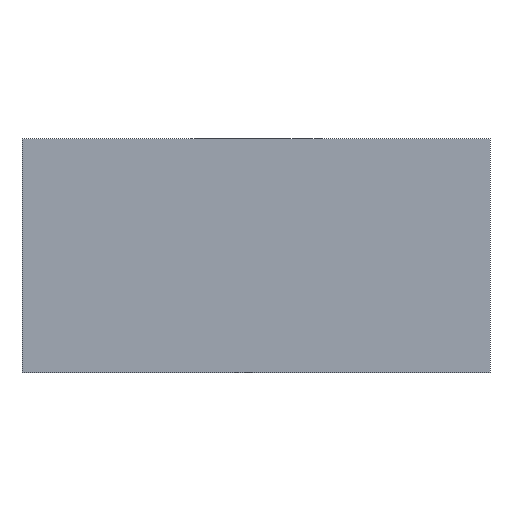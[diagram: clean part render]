
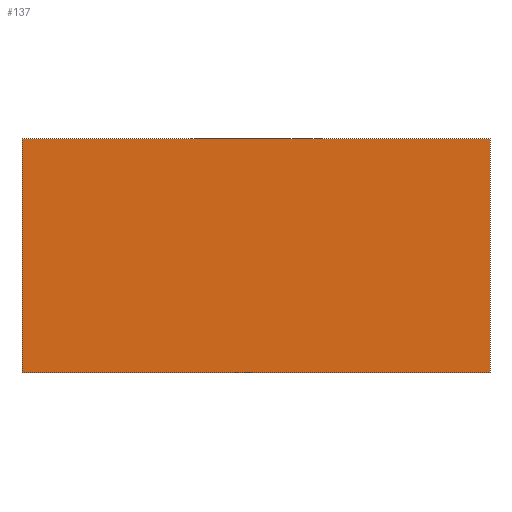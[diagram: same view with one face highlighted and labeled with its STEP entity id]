
A CAD part, front view. The second image highlights one B-rep face of the part: STEP entity #137.
In plain terms, the highlighted planar face has unit normal (0, -1, 0).
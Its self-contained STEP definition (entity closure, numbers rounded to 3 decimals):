
#21 = EDGE_CURVE('',#22,#24,#26,.T.);
#22 = VERTEX_POINT('',#23);
#23 = CARTESIAN_POINT('',(-8.,-52.8,-87.));
#24 = VERTEX_POINT('',#25);
#25 = CARTESIAN_POINT('',(-8.,-52.8,-79.));
#26 = SURFACE_CURVE('',#27,(#31,#43),.PCURVE_S1.);
#27 = LINE('',#28,#29);
#28 = CARTESIAN_POINT('',(-8.,-52.8,-87.));
#29 = VECTOR('',#30,1.);
#30 = DIRECTION('',(0.,0.,1.));
#31 = PCURVE('',#32,#37);
#32 = PLANE('',#33);
#33 = AXIS2_PLACEMENT_3D('',#34,#35,#36);
#34 = CARTESIAN_POINT('',(-8.,-52.8,-87.));
#35 = DIRECTION('',(1.,0.,0.));
#36 = DIRECTION('',(0.,0.,1.));
#37 = DEFINITIONAL_REPRESENTATION('',(#38),#42);
#38 = LINE('',#39,#40);
#39 = CARTESIAN_POINT('',(0.,0.));
#40 = VECTOR('',#41,1.);
#41 = DIRECTION('',(1.,0.));
#42 = ( GEOMETRIC_REPRESENTATION_CONTEXT(2) 
PARAMETRIC_REPRESENTATION_CONTEXT() REPRESENTATION_CONTEXT('2D SPACE',''
  ) );
#43 = PCURVE('',#44,#49);
#44 = PLANE('',#45);
#45 = AXIS2_PLACEMENT_3D('',#46,#47,#48);
#46 = CARTESIAN_POINT('',(-8.,-52.8,-87.));
#47 = DIRECTION('',(0.,1.,0.));
#48 = DIRECTION('',(0.,0.,1.));
#49 = DEFINITIONAL_REPRESENTATION('',(#50),#54);
#50 = LINE('',#51,#52);
#51 = CARTESIAN_POINT('',(0.,0.));
#52 = VECTOR('',#53,1.);
#53 = DIRECTION('',(1.,0.));
#54 = ( GEOMETRIC_REPRESENTATION_CONTEXT(2) 
PARAMETRIC_REPRESENTATION_CONTEXT() REPRESENTATION_CONTEXT('2D SPACE',''
  ) );
#72 = PLANE('',#73);
#73 = AXIS2_PLACEMENT_3D('',#74,#75,#76);
#74 = CARTESIAN_POINT('',(-8.,-52.8,-87.));
#75 = DIRECTION('',(0.,0.,1.));
#76 = DIRECTION('',(1.,0.,0.));
#126 = PLANE('',#127);
#127 = AXIS2_PLACEMENT_3D('',#128,#129,#130);
#128 = CARTESIAN_POINT('',(-8.,-52.8,-79.));
#129 = DIRECTION('',(0.,0.,1.));
#130 = DIRECTION('',(1.,0.,0.));
#137 = ADVANCED_FACE('',(#138),#44,.F.);
#138 = FACE_BOUND('',#139,.F.);
#139 = EDGE_LOOP('',(#140,#163,#164,#187));
#140 = ORIENTED_EDGE('',*,*,#141,.F.);
#141 = EDGE_CURVE('',#22,#142,#144,.T.);
#142 = VERTEX_POINT('',#143);
#143 = CARTESIAN_POINT('',(8.,-52.8,-87.));
#144 = SURFACE_CURVE('',#145,(#149,#156),.PCURVE_S1.);
#145 = LINE('',#146,#147);
#146 = CARTESIAN_POINT('',(-8.,-52.8,-87.));
#147 = VECTOR('',#148,1.);
#148 = DIRECTION('',(1.,0.,0.));
#149 = PCURVE('',#44,#150);
#150 = DEFINITIONAL_REPRESENTATION('',(#151),#155);
#151 = LINE('',#152,#153);
#152 = CARTESIAN_POINT('',(0.,0.));
#153 = VECTOR('',#154,1.);
#154 = DIRECTION('',(0.,1.));
#155 = ( GEOMETRIC_REPRESENTATION_CONTEXT(2) 
PARAMETRIC_REPRESENTATION_CONTEXT() REPRESENTATION_CONTEXT('2D SPACE',''
  ) );
#156 = PCURVE('',#72,#157);
#157 = DEFINITIONAL_REPRESENTATION('',(#158),#162);
#158 = LINE('',#159,#160);
#159 = CARTESIAN_POINT('',(0.,0.));
#160 = VECTOR('',#161,1.);
#161 = DIRECTION('',(1.,0.));
#162 = ( GEOMETRIC_REPRESENTATION_CONTEXT(2) 
PARAMETRIC_REPRESENTATION_CONTEXT() REPRESENTATION_CONTEXT('2D SPACE',''
  ) );
#163 = ORIENTED_EDGE('',*,*,#21,.T.);
#164 = ORIENTED_EDGE('',*,*,#165,.T.);
#165 = EDGE_CURVE('',#24,#166,#168,.T.);
#166 = VERTEX_POINT('',#167);
#167 = CARTESIAN_POINT('',(8.,-52.8,-79.));
#168 = SURFACE_CURVE('',#169,(#173,#180),.PCURVE_S1.);
#169 = LINE('',#170,#171);
#170 = CARTESIAN_POINT('',(-8.,-52.8,-79.));
#171 = VECTOR('',#172,1.);
#172 = DIRECTION('',(1.,0.,0.));
#173 = PCURVE('',#44,#174);
#174 = DEFINITIONAL_REPRESENTATION('',(#175),#179);
#175 = LINE('',#176,#177);
#176 = CARTESIAN_POINT('',(8.,0.));
#177 = VECTOR('',#178,1.);
#178 = DIRECTION('',(0.,1.));
#179 = ( GEOMETRIC_REPRESENTATION_CONTEXT(2) 
PARAMETRIC_REPRESENTATION_CONTEXT() REPRESENTATION_CONTEXT('2D SPACE',''
  ) );
#180 = PCURVE('',#126,#181);
#181 = DEFINITIONAL_REPRESENTATION('',(#182),#186);
#182 = LINE('',#183,#184);
#183 = CARTESIAN_POINT('',(0.,0.));
#184 = VECTOR('',#185,1.);
#185 = DIRECTION('',(1.,0.));
#186 = ( GEOMETRIC_REPRESENTATION_CONTEXT(2) 
PARAMETRIC_REPRESENTATION_CONTEXT() REPRESENTATION_CONTEXT('2D SPACE',''
  ) );
#187 = ORIENTED_EDGE('',*,*,#188,.F.);
#188 = EDGE_CURVE('',#142,#166,#189,.T.);
#189 = SURFACE_CURVE('',#190,(#194,#201),.PCURVE_S1.);
#190 = LINE('',#191,#192);
#191 = CARTESIAN_POINT('',(8.,-52.8,-87.));
#192 = VECTOR('',#193,1.);
#193 = DIRECTION('',(0.,0.,1.));
#194 = PCURVE('',#44,#195);
#195 = DEFINITIONAL_REPRESENTATION('',(#196),#200);
#196 = LINE('',#197,#198);
#197 = CARTESIAN_POINT('',(0.,16.));
#198 = VECTOR('',#199,1.);
#199 = DIRECTION('',(1.,0.));
#200 = ( GEOMETRIC_REPRESENTATION_CONTEXT(2) 
PARAMETRIC_REPRESENTATION_CONTEXT() REPRESENTATION_CONTEXT('2D SPACE',''
  ) );
#201 = PCURVE('',#202,#207);
#202 = PLANE('',#203);
#203 = AXIS2_PLACEMENT_3D('',#204,#205,#206);
#204 = CARTESIAN_POINT('',(8.,-52.8,-87.));
#205 = DIRECTION('',(1.,0.,0.));
#206 = DIRECTION('',(0.,0.,1.));
#207 = DEFINITIONAL_REPRESENTATION('',(#208),#212);
#208 = LINE('',#209,#210);
#209 = CARTESIAN_POINT('',(0.,0.));
#210 = VECTOR('',#211,1.);
#211 = DIRECTION('',(1.,0.));
#212 = ( GEOMETRIC_REPRESENTATION_CONTEXT(2) 
PARAMETRIC_REPRESENTATION_CONTEXT() REPRESENTATION_CONTEXT('2D SPACE',''
  ) );
